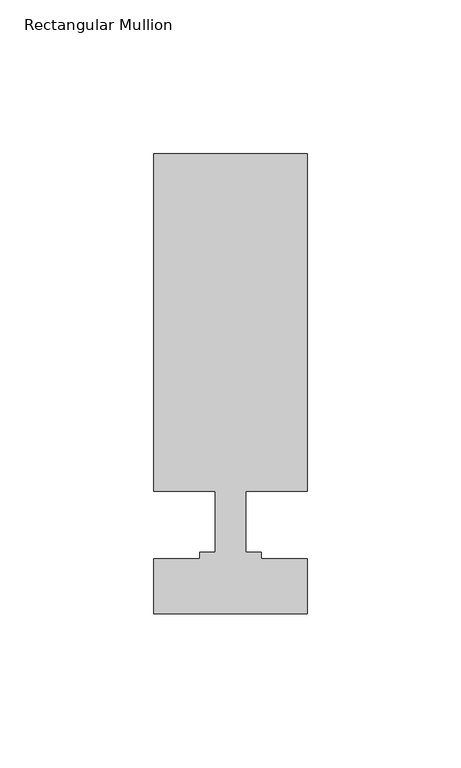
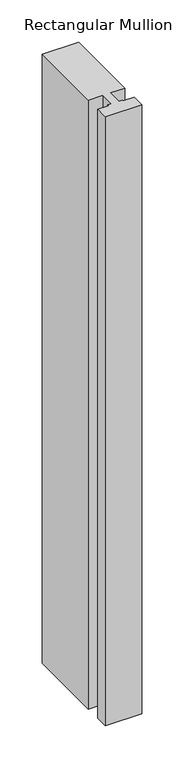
"""IFC4 building model written with IfcOpenShell, lengths in millimetres: member geometry, Rectangular Mullion : TR_CW_¸ALU_internal."""

from ifc_helpers import new_model, si_unit, frame, origin, place, context, project, spatial, polyline, outline, extrude, source, transform, mapped, element, save


def rectangular_mullion_2ae66f48(model_context):
    return source(origin(), model_context, "Body", "SweptSolid", [
        extrude(outline(polyline([(25.0, 0.0), (-25.0, 0.0), (-25.0, 18.0204111), (-10.0, 18.0204111), (-10.0, 20.0), (-5.0, 20.0), (-5.0, 40.0), (-25.0, 40.0), (-25.0, 149.8096073), (25.0, 149.8096073), (25.0, 40.0), (5.0, 40.0), (5.0, 20.0), (10.0, 20.0), (10.0, 18.0204111), (25.0, 18.0204111), (25.0, 0.0)])), frame((0.0, 0.0, -882.5), z_axis=(0.0, 0.0, 1.0), x_axis=(1.0, 0.0, 0.0)), (0.0, 0.0, 1.0), 882.5),
    ])


if __name__ == "__main__":
    model = new_model("IFC4")
    model_context = context("Model", 3, world=origin())
    ifc_project = project(units=[si_unit("LENGTHUNIT", "METRE", prefix="MILLI")], contexts=[model_context])
    site = spatial("IfcSite", under=ifc_project)
    building = spatial("IfcBuilding", under=site)
    placement = place(None, origin())
    rectangular_mullion_shape = rectangular_mullion_2ae66f48(model_context)
    element("IfcMember", 1, ObjectType="Rectangular Mullion : TR_CW_¸ALU_internal", at=placement, inside=building, context=model_context, shape_type="MappedRepresentation", body=[
        mapped(rectangular_mullion_shape, transform((0.0, 0.0, 0.0), x_axis=(1.0, 0.0, 0.0), y_axis=(0.0, 1.0, 0.0), z_axis=(0.0, 0.0, 1.0))),
    ])
    save(model, "model.ifc")
